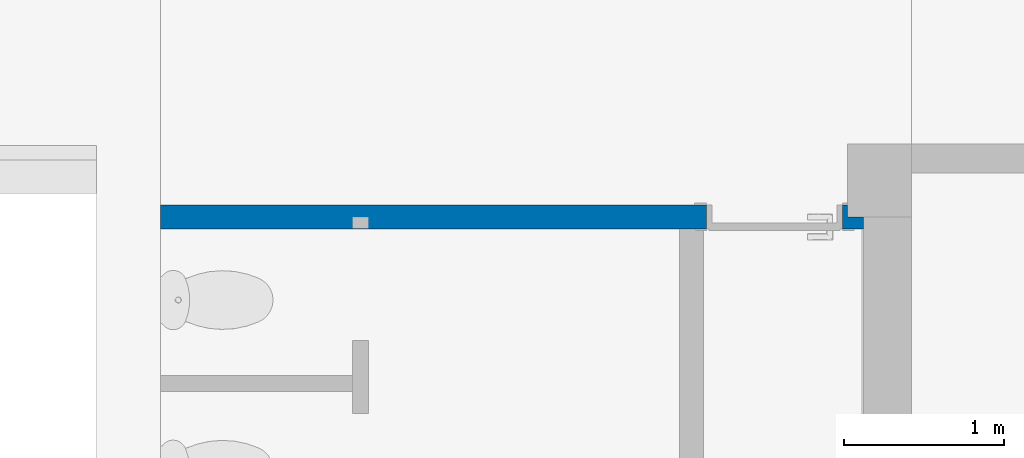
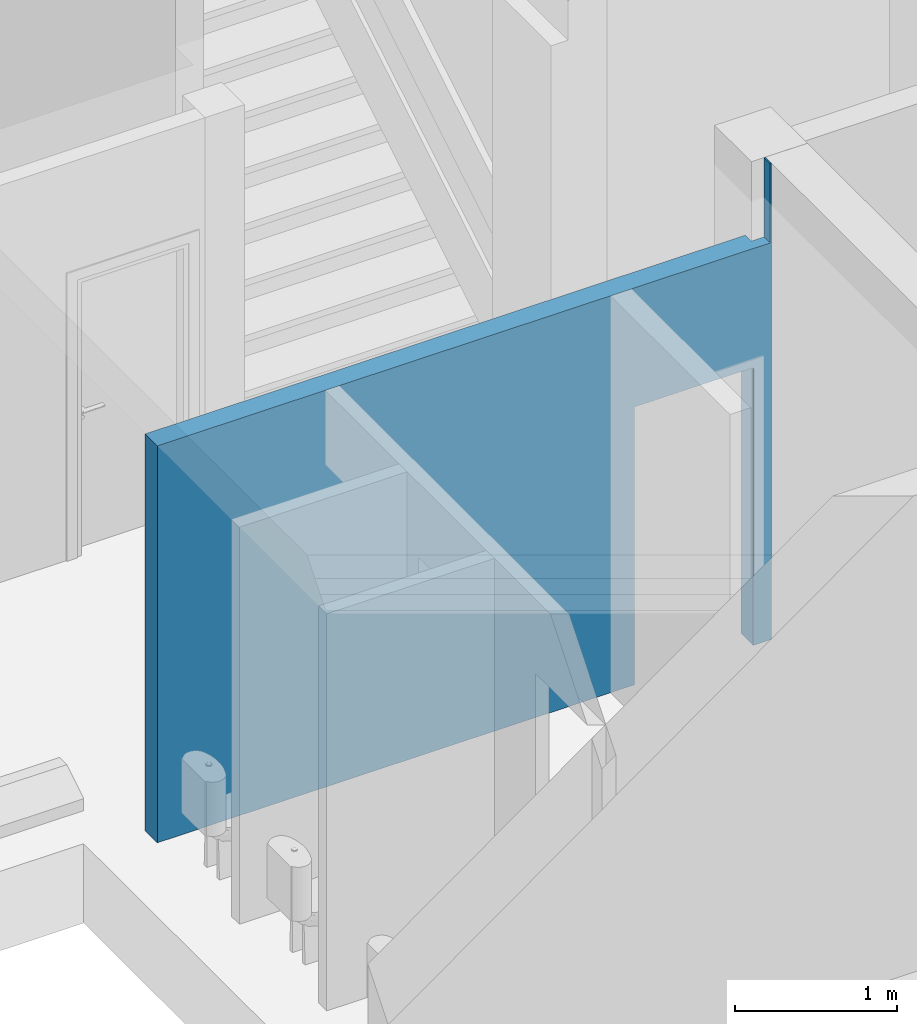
# One storey, part 81 of 117: 1 wall, 1 opening.
"""IFC4 building model written with IfcOpenShell, lengths in metres."""

from ifc_helpers import new_model, entity, si_unit, converted_unit, derived_unit, direction, frame, origin, place, context, subcontext, project, spatial, indexed_curve, outline, extrude, polygons, material, type_object, element, save


model = new_model("IFC4")

# Units and contexts
model_context = context("Model", 3, precision=1e-05, world=origin(), true_north=direction((6.123031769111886e-17, 1.0)))
body_context = subcontext(model_context, "Body", "Model", "MODEL_VIEW")
ifc_project = project(units=[si_unit("LENGTHUNIT", "METRE"), si_unit("AREAUNIT", "SQUARE_METRE"), si_unit("VOLUMEUNIT", "CUBIC_METRE"), converted_unit("PLANEANGLEUNIT", "DEGREE", entity("IfcRatioMeasure", 0.017453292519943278), si_unit("PLANEANGLEUNIT", "RADIAN"), dimensions=[0, 0, 0, 0, 0, 0, 0]), si_unit("MASSUNIT", "GRAM", prefix="KILO"), derived_unit("MASSDENSITYUNIT", [(si_unit("MASSUNIT", "GRAM", prefix="KILO"), 1), (si_unit("LENGTHUNIT", "METRE"), -3)]), derived_unit("MOMENTOFINERTIAUNIT", [(si_unit("LENGTHUNIT", "METRE"), 4)]), si_unit("TIMEUNIT", "SECOND"), si_unit("FREQUENCYUNIT", "HERTZ"), si_unit("THERMODYNAMICTEMPERATUREUNIT", "DEGREE_CELSIUS"), derived_unit("THERMALTRANSMITTANCEUNIT", [(si_unit("MASSUNIT", "GRAM", prefix="KILO"), 1), (si_unit("THERMODYNAMICTEMPERATUREUNIT", "KELVIN"), -1), (si_unit("TIMEUNIT", "SECOND"), -3)]), derived_unit("VOLUMETRICFLOWRATEUNIT", [(si_unit("LENGTHUNIT", "METRE"), 3), (si_unit("TIMEUNIT", "SECOND"), -1)]), derived_unit("MASSFLOWRATEUNIT", [(si_unit("MASSUNIT", "GRAM", prefix="KILO"), 1), (si_unit("TIMEUNIT", "SECOND"), -1)]), derived_unit("ROTATIONALFREQUENCYUNIT", [(si_unit("TIMEUNIT", "SECOND"), -1)]), si_unit("ELECTRICCURRENTUNIT", "AMPERE"), si_unit("ELECTRICVOLTAGEUNIT", "VOLT"), si_unit("POWERUNIT", "WATT"), si_unit("FORCEUNIT", "NEWTON", prefix="KILO"), si_unit("ILLUMINANCEUNIT", "LUX"), si_unit("LUMINOUSFLUXUNIT", "LUMEN"), si_unit("LUMINOUSINTENSITYUNIT", "CANDELA"), derived_unit("USERDEFINED", [(si_unit("MASSUNIT", "GRAM", prefix="KILO"), -1), (si_unit("LENGTHUNIT", "METRE"), -2), (si_unit("TIMEUNIT", "SECOND"), 3), (si_unit("LUMINOUSFLUXUNIT", "LUMEN"), 1)]), derived_unit("SOUNDPOWERUNIT", [(si_unit("MASSUNIT", "GRAM", prefix="KILO"), 1), (si_unit("LENGTHUNIT", "METRE"), 2), (si_unit("TIMEUNIT", "SECOND"), -3)]), derived_unit("SOUNDPRESSUREUNIT", [(si_unit("MASSUNIT", "GRAM", prefix="KILO"), 1), (si_unit("LENGTHUNIT", "METRE"), -1), (si_unit("TIMEUNIT", "SECOND"), -2)]), derived_unit("LINEARVELOCITYUNIT", [(si_unit("LENGTHUNIT", "METRE"), 1), (si_unit("TIMEUNIT", "SECOND"), -1)]), si_unit("PRESSUREUNIT", "PASCAL"), derived_unit("USERDEFINED", [(si_unit("LENGTHUNIT", "METRE"), -2), (si_unit("MASSUNIT", "GRAM", prefix="KILO"), 1), (si_unit("TIMEUNIT", "SECOND"), -2)]), derived_unit("LINEARFORCEUNIT", [(si_unit("MASSUNIT", "GRAM", prefix="KILO"), 1), (si_unit("LENGTHUNIT", "METRE"), 1), (si_unit("TIMEUNIT", "SECOND"), -2), (si_unit("LENGTHUNIT", "METRE"), -1)]), derived_unit("PLANARFORCEUNIT", [(si_unit("MASSUNIT", "GRAM", prefix="KILO"), 1), (si_unit("LENGTHUNIT", "METRE"), 1), (si_unit("TIMEUNIT", "SECOND"), -2), (si_unit("LENGTHUNIT", "METRE"), -2)])], contexts=[model_context])

# Site, building, storey
site_placement = place(None, origin())
site = spatial("IfcSite", under=ifc_project, at=site_placement, Name="Superficie", CompositionType="ELEMENT")
building_placement = place(site_placement, origin())
building = spatial("IfcBuilding", under=site, at=building_placement, CompositionType="ELEMENT")
storey_placement = place(building_placement, origin())
storey = spatial("IfcBuildingStorey", under=building, at=storey_placement, Name="Nivel 0", CompositionType="ELEMENT", Elevation=0.0)

# Wall, opening
ifc_material = material(Name="Muro por defecto", Category="Varios")
wall_type = type_object("IfcWallType", Name="Muro básico:Por defecto - 15 cm 2", PredefinedType="STANDARD")
wall_placement = place(storey_placement, frame((20.986799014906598, -6.589170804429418, 0.0)))
wall = element("IfcWall", 1, at=wall_placement, inside=storey, type_object=wall_type, material=ifc_material, Name="Muro básico:Por defecto - 15 cm 2", ObjectType="Muro básico:Por defecto - 15 cm 2", PredefinedType="NOTDEFINED", context=body_context, shape_type="Tessellation", body=[
    polygons([(4.390000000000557, -0.07499999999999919, 3.5999999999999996), (4.380000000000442, -0.07499999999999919, 3.5999999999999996), (4.380000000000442, -0.07499999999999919, 2.9999999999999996), (3.389803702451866, -0.07499999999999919, 2.999999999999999), (3.2398037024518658, -0.07499999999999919, 2.9999999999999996), (8.015271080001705e-15, -0.07499999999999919, 2.9999999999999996), (2.1009676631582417e-14, -0.07499999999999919, 0.0), (3.2398037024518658, -0.07499999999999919, 0.0), (3.389803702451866, -0.07499999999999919, 0.0), (3.4098037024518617, -0.07500000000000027, 0.0), (3.409803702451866, -0.07500000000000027, 2.099999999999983), (4.259803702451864, -0.07499999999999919, 2.099999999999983), (4.259803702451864, -0.07499999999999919, 0.0), (4.390000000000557, -0.07499999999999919, 0.0), (4.290000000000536, 0.07500000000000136, 2.9999999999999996), (4.290000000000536, 0.07500000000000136, 0.0), (4.259803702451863, 0.07500000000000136, 0.0), (4.259803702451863, 0.07500000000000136, 2.099999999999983), (3.4098037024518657, 0.07500000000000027, 2.099999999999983), (3.4098037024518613, 0.07500000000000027, 0.0), (2.053678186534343e-14, 0.07500000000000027, 0.0), (2.053678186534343e-14, 0.07500000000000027, 2.9999999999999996), (4.390000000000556, -1.0828671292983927e-15, 3.5999999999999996), (4.380000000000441, -1.0828671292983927e-15, 3.5999999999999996), (4.380000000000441, -1.0828671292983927e-15, 2.9999999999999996), (4.39000000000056, -1.0828671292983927e-15, 1.127986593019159e-17), (4.290000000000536, -1.0828671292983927e-15, 1.127986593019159e-17), (4.290000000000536, -1.0828671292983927e-15, 2.9999999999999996)], [[[1, 2, 3, 4, 5, 6, 7, 8, 9, 10, 11, 12, 13, 14]], [[15, 16, 17, 18, 19, 20, 21, 22]], [[7, 21, 20, 10, 9, 8]], [[2, 1, 23, 24]], [[2, 24, 25, 3]], [[7, 6, 22, 21]], [[1, 14, 26, 23]], [[26, 27, 28, 25, 24, 23]], [[16, 15, 28, 27]], [[15, 22, 6, 5, 4, 3, 25, 28]], [[19, 11, 10, 20]], [[11, 19, 18, 12]], [[12, 18, 17, 13]], [[16, 27, 26, 14, 13, 17]]], closed=True),
])
opening_placement = place(wall_placement, frame((4.2598037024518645, 0.07499999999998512, 0.0)))
element("IfcOpeningElement", 2, at=opening_placement, cuts=wall, Name="Puerta de 1 hoja:85 x 210 cm 2:1", PredefinedType="OPENING", context=body_context, shape_type="SweptSolid", body=[
    extrude(outline(indexed_curve([(0.0, 0.8500000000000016), (0.0, -2.6670947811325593e-32), (2.099999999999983, -2.6670947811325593e-32), (2.099999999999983, 0.8500000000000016), (0.0, 0.8500000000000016)], self_intersect=False)), frame((0.0, 0.0, 0.0), z_axis=(0.0, -1.0, 0.0), x_axis=(0.0, 0.0, 1.0)), (0.0, 0.0, 1.0), 0.14999999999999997),
])

save(model, "model.ifc")
